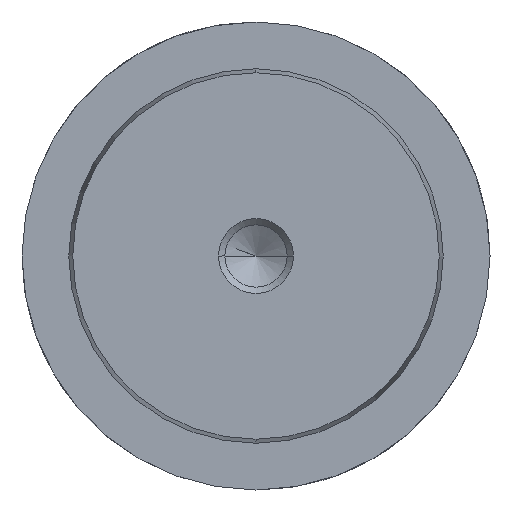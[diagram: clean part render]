
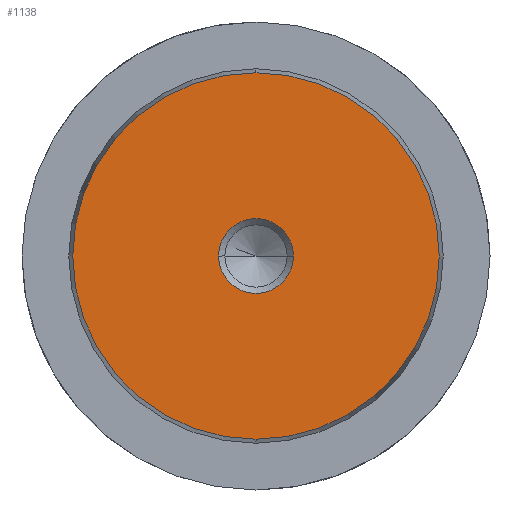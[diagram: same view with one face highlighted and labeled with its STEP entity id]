
A CAD part, left-side view. The second image highlights one B-rep face of the part: STEP entity #1138.
In plain terms, the highlighted planar face has unit normal (-1, 0, 0).
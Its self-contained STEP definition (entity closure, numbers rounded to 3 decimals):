
#1052=CARTESIAN_POINT('Vertex',(0.,0.,-19.578)) ;
#1055=CARTESIAN_POINT('Axis2P3D Location',(0.,0.,0.)) ;
#1059=CARTESIAN_POINT('Vertex',(0.,19.578,0.)) ;
#1062=CARTESIAN_POINT('Axis2P3D Location',(0.,0.,0.)) ;
#1066=CARTESIAN_POINT('Vertex',(0.,0.,19.578)) ;
#1088=CARTESIAN_POINT('Axis2P3D Location',(0.,0.,0.)) ;
#1092=CARTESIAN_POINT('Vertex',(0.,-19.578,0.)) ;
#1095=CARTESIAN_POINT('Axis2P3D Location',(0.,0.,0.)) ;
#1109=CARTESIAN_POINT('Axis2P3D Location',(0.,0.,0.)) ;
#1120=CARTESIAN_POINT('Axis2P3D Location',(0.,0.,0.)) ;
#1124=CARTESIAN_POINT('Vertex',(0.,4.,0.)) ;
#1126=CARTESIAN_POINT('Vertex',(0.,-4.,0.)) ;
#1129=CARTESIAN_POINT('Axis2P3D Location',(0.,0.,0.)) ;
#1056=DIRECTION('Axis2P3D Direction',(1.,-0.,0.)) ;
#1063=DIRECTION('Axis2P3D Direction',(1.,-0.,0.)) ;
#1089=DIRECTION('Axis2P3D Direction',(1.,0.,-0.)) ;
#1096=DIRECTION('Axis2P3D Direction',(1.,0.,-0.)) ;
#1110=DIRECTION('Axis2P3D Direction',(1.,0.,-0.)) ;
#1111=DIRECTION('Axis2P3D XDirection',(-0.,0.,-1.)) ;
#1121=DIRECTION('Axis2P3D Direction',(1.,0.,-0.)) ;
#1130=DIRECTION('Axis2P3D Direction',(1.,0.,-0.)) ;
#1057=AXIS2_PLACEMENT_3D('Circle Axis2P3D',#1055,#1056,$) ;
#1064=AXIS2_PLACEMENT_3D('Circle Axis2P3D',#1062,#1063,$) ;
#1090=AXIS2_PLACEMENT_3D('Circle Axis2P3D',#1088,#1089,$) ;
#1097=AXIS2_PLACEMENT_3D('Circle Axis2P3D',#1095,#1096,$) ;
#1112=AXIS2_PLACEMENT_3D('Plane Axis2P3D',#1109,#1110,#1111) ;
#1122=AXIS2_PLACEMENT_3D('Circle Axis2P3D',#1120,#1121,$) ;
#1131=AXIS2_PLACEMENT_3D('Circle Axis2P3D',#1129,#1130,$) ;
#1115=ORIENTED_EDGE('',*,*,#1061,.F.) ;
#1116=ORIENTED_EDGE('',*,*,#1099,.F.) ;
#1117=ORIENTED_EDGE('',*,*,#1094,.F.) ;
#1118=ORIENTED_EDGE('',*,*,#1068,.F.) ;
#1135=ORIENTED_EDGE('',*,*,#1128,.T.) ;
#1136=ORIENTED_EDGE('',*,*,#1133,.T.) ;
#1137=FACE_BOUND('',#1134,.T.) ;
#1138=ADVANCED_FACE('719-40x315',(#1119,#1137),#1113,.F.) ;
#1058=CIRCLE('generated circle',#1057,19.578) ;
#1065=CIRCLE('generated circle',#1064,19.578) ;
#1091=CIRCLE('generated circle',#1090,19.578) ;
#1098=CIRCLE('generated circle',#1097,19.578) ;
#1123=CIRCLE('generated circle',#1122,4.) ;
#1132=CIRCLE('generated circle',#1131,4.) ;
#1061=EDGE_CURVE('',#1053,#1060,#1058,.T.) ;
#1068=EDGE_CURVE('',#1060,#1067,#1065,.T.) ;
#1094=EDGE_CURVE('',#1067,#1093,#1091,.T.) ;
#1099=EDGE_CURVE('',#1093,#1053,#1098,.T.) ;
#1128=EDGE_CURVE('',#1125,#1127,#1123,.T.) ;
#1133=EDGE_CURVE('',#1127,#1125,#1132,.T.) ;
#1114=EDGE_LOOP('',(#1115,#1116,#1117,#1118)) ;
#1134=EDGE_LOOP('',(#1135,#1136)) ;
#1119=FACE_OUTER_BOUND('',#1114,.T.) ;
#1113=PLANE('Plane',#1112) ;
#1053=VERTEX_POINT('',#1052) ;
#1060=VERTEX_POINT('',#1059) ;
#1067=VERTEX_POINT('',#1066) ;
#1093=VERTEX_POINT('',#1092) ;
#1125=VERTEX_POINT('',#1124) ;
#1127=VERTEX_POINT('',#1126) ;
